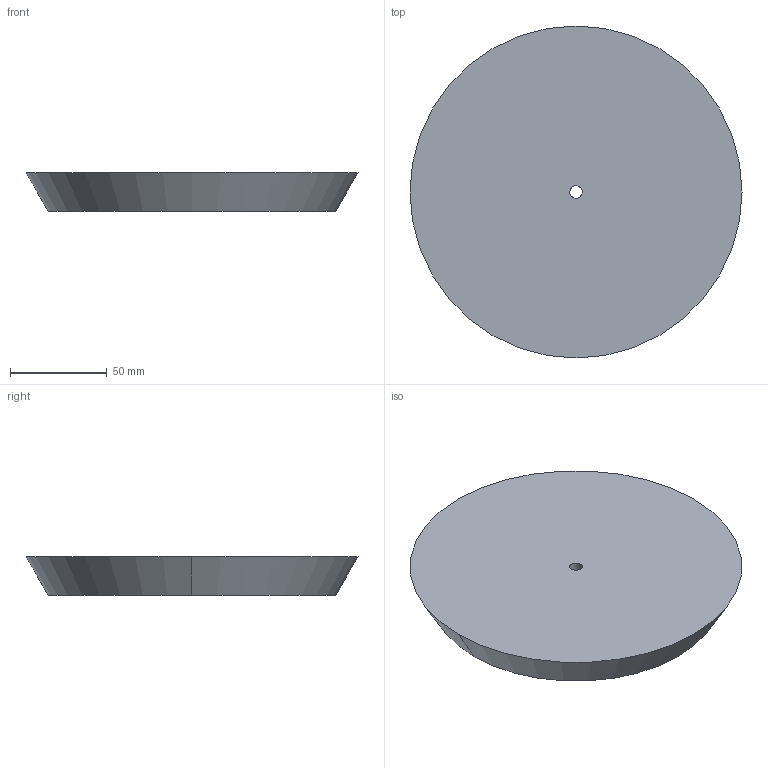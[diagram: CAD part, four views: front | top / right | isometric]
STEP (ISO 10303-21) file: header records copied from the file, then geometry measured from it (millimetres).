
FILE_DESCRIPTION(('CATIA V5 STEP Exchange'),'2;1');
FILE_NAME('C:\Users\andres.garcia\OneDrive - IQS\ASIGNATURAS\DAO\Controles\2223\c0\c1-VIDAL_Jesus-tapon.stp','2023-02-03T08:22:07+00:00',('none'),('none'),'CATIA Version 5-6 Release 2013 SP6','CATIA V5 STEP AP203','none');
FILE_SCHEMA(('CONFIG_CONTROL_DESIGN'));
Length unit declared in the file: millimetre
Products named in the file (1): c1-VIDAL_Jesus-tapon
Bounding box: 172 x 172 x 20 mm (x, y, z)
Volume: 404438.6 mm3; surface area: 52633.1 mm2
Topology: 1 solids, 1 shells, 6 faces, 12 edges, 8 vertices
Faces by surface type: cylinder 2, plane 2, cone 2
Entity records: 196 total; most frequent: CARTESIAN_POINT 26, ORIENTED_EDGE 24, DIRECTION 22, AXIS2_PLACEMENT_3D 14, EDGE_CURVE 12, CIRCLE 8, EDGE_LOOP 8, VERTEX_POINT 8
